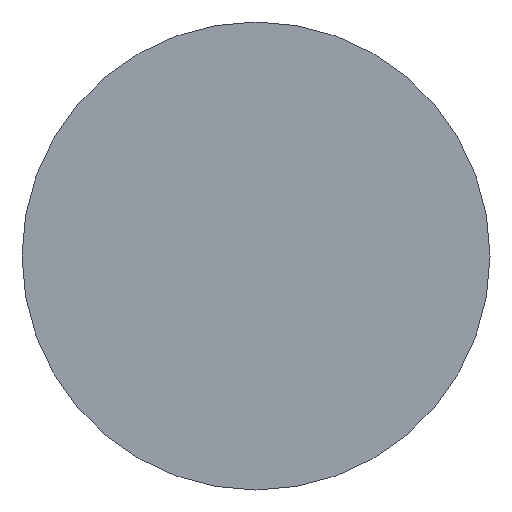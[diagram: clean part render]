
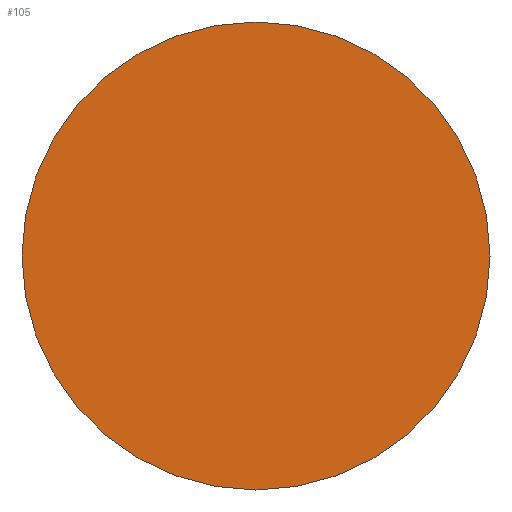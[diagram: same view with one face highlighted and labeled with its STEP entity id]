
A CAD part, front view. The second image highlights one B-rep face of the part: STEP entity #105.
In plain terms, the highlighted planar face has unit normal (0, -1, 0).
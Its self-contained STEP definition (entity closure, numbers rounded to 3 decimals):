
#22 = VERTEX_POINT('',#23);
#23 = CARTESIAN_POINT('',(4.,-18.,300.));
#32 = CYLINDRICAL_SURFACE('',#33,4.);
#33 = AXIS2_PLACEMENT_3D('',#34,#35,#36);
#34 = CARTESIAN_POINT('',(0.,-18.,300.));
#35 = DIRECTION('',(0.,-1.,0.));
#36 = DIRECTION('',(1.,0.,0.));
#79 = EDGE_CURVE('',#22,#22,#80,.T.);
#80 = SURFACE_CURVE('',#81,(#86,#93),.PCURVE_S1.);
#81 = CIRCLE('',#82,4.);
#82 = AXIS2_PLACEMENT_3D('',#83,#84,#85);
#83 = CARTESIAN_POINT('',(0.,-18.,300.));
#84 = DIRECTION('',(0.,-1.,0.));
#85 = DIRECTION('',(1.,0.,0.));
#86 = PCURVE('',#32,#87);
#87 = DEFINITIONAL_REPRESENTATION('',(#88),#92);
#88 = LINE('',#89,#90);
#89 = CARTESIAN_POINT('',(0.,0.));
#90 = VECTOR('',#91,1.);
#91 = DIRECTION('',(1.,0.));
#92 = ( GEOMETRIC_REPRESENTATION_CONTEXT(2) 
PARAMETRIC_REPRESENTATION_CONTEXT() REPRESENTATION_CONTEXT('2D SPACE',''
  ) );
#93 = PCURVE('',#94,#99);
#94 = PLANE('',#95);
#95 = AXIS2_PLACEMENT_3D('',#96,#97,#98);
#96 = CARTESIAN_POINT('',(0.,-18.,300.));
#97 = DIRECTION('',(-0.,-1.,-0.));
#98 = DIRECTION('',(0.,0.,-1.));
#99 = DEFINITIONAL_REPRESENTATION('',(#100),#104);
#100 = CIRCLE('',#101,4.);
#101 = AXIS2_PLACEMENT_2D('',#102,#103);
#102 = CARTESIAN_POINT('',(0.,0.));
#103 = DIRECTION('',(0.,1.));
#104 = ( GEOMETRIC_REPRESENTATION_CONTEXT(2) 
PARAMETRIC_REPRESENTATION_CONTEXT() REPRESENTATION_CONTEXT('2D SPACE',''
  ) );
#105 = ADVANCED_FACE('',(#106),#94,.T.);
#106 = FACE_BOUND('',#107,.T.);
#107 = EDGE_LOOP('',(#108));
#108 = ORIENTED_EDGE('',*,*,#79,.T.);
